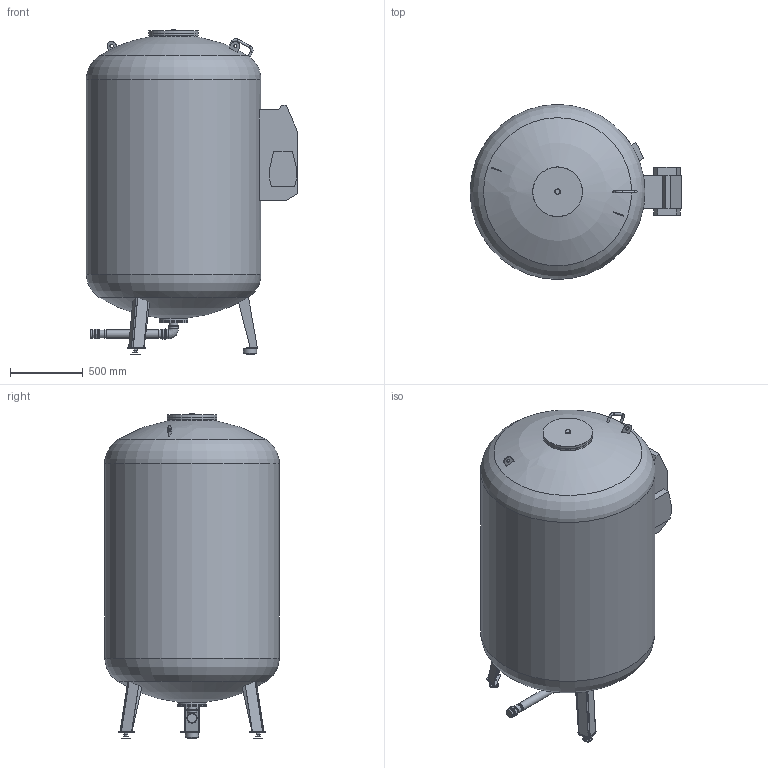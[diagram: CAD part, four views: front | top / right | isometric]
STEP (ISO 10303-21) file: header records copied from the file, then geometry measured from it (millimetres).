
FILE_DESCRIPTION(/* description */ (''),/* implementation_level */ '2;1');
FILE_NAME(/* name */ '\\DATASERVER\data\Flamco\3D-Modellen\Inventor\Flamcomat\2021_Flamcomat MK-U G4\flamcomat_mk-u_g4_2000_6.stp',/* time_stamp */ '2021-11-29T10:49:22+01:00',/* author */ ('kasius'),/* organization */ (''),/* preprocessor_version */ 'ST-DEVELOPER v17',/* originating_system */ 'Autodesk Inventor 2018',/* authorisation */ '');
FILE_SCHEMA (('AUTOMOTIVE_DESIGN { 1 0 10303 214 3 1 1 }'));
Length unit declared in the file: millimetre
Products named in the file (1): flamcomat_mk-u_g4_2000_6
Bounding box: 1453.04 x 1200 x 2232.5 mm (x, y, z)
Volume: 2014707256.4 mm3; surface area: 9486436 mm2
Topology: 5 solids, 5 shells, 289 faces, 767 edges, 521 vertices
Faces by surface type: plane 163, cone 63, cylinder 55, torus 4, bspline 2, sphere 2
Full cylindrical faces by diameter (mm): 16 x5, 20 x2, 24 x2, 33 x2, 38.75 x1, 47.67 x1, 52.97 x1, 53.97 x1, 56.07 x1, 57.97 x1, 58.97 x2, 59.97 x1, 60.3 x1, 65 x4, 68.51 x1, 71 x1, 90 x1, 162 x1, 198 x2, 306 x1, 342 x2, 1200 x1
Entity records: 9450 total; most frequent: CARTESIAN_POINT 1871, DIRECTION 1577, ORIENTED_EDGE 1534, EDGE_CURVE 767, AXIS2_PLACEMENT_3D 588, VERTEX_POINT 521, LINE 401, VECTOR 401
